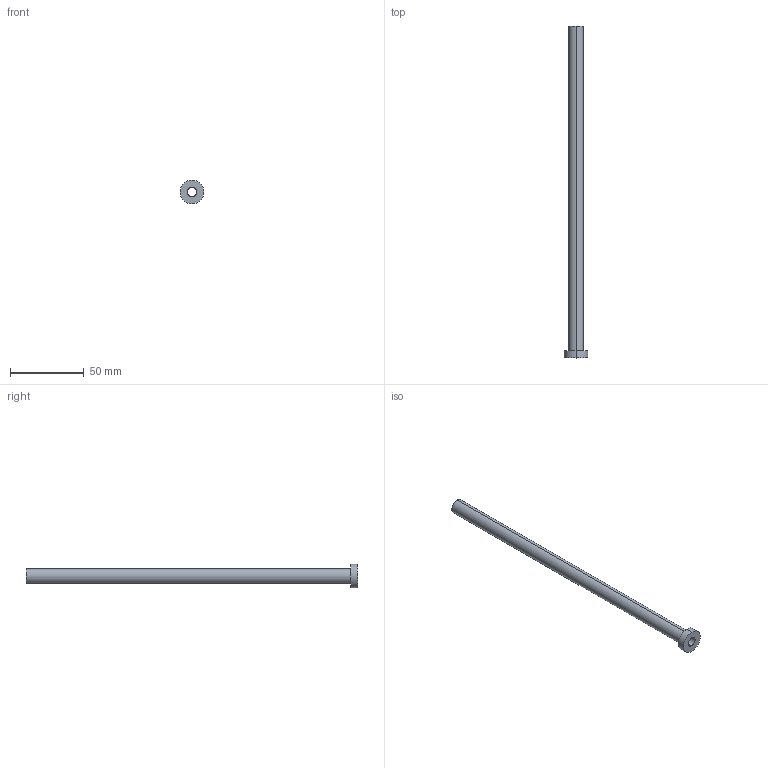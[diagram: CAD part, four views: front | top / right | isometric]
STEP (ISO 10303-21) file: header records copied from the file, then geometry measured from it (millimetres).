
FILE_DESCRIPTION (( 'STEP AP214' ), '1' );
FILE_NAME ('ET-ETN-6x225.STEP', '2019-12-16T17:05:01', ( 'August' ), ( '' ), 'SwSTEP 2.0', 'SolidWorks 2018', '' );
FILE_SCHEMA (( 'AUTOMOTIVE_DESIGN' ));
Length unit declared in the file: millimetre
Products named in the file (1): ET-ETN-6x225
Bounding box: 16 x 225 x 16 mm (x, y, z)
Volume: 11039.4 mm3; surface area: 12029.2 mm2
Topology: 1 solids, 1 shells, 13 faces, 26 edges, 16 vertices
Faces by surface type: cylinder 8, plane 3, cone 2
Entity records: 382 total; most frequent: DIRECTION 70, CARTESIAN_POINT 56, ORIENTED_EDGE 52, AXIS2_PLACEMENT_3D 30, EDGE_CURVE 26, CIRCLE 16, EDGE_LOOP 16, VERTEX_POINT 16
